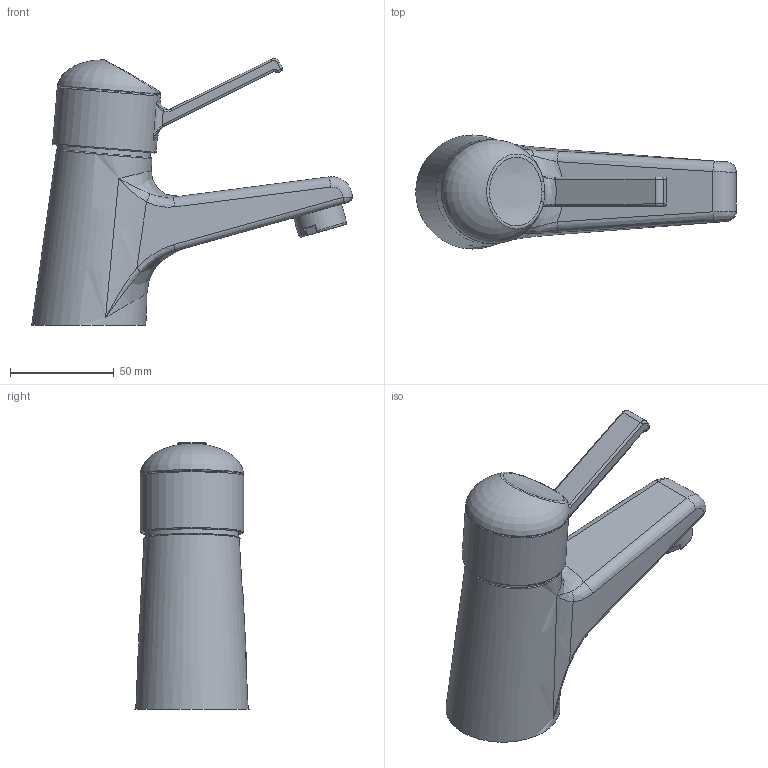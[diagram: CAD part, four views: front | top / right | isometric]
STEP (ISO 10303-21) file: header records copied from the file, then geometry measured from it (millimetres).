
FILE_DESCRIPTION(('STEP AP242'), '1');
FILE_NAME('30CR211R2LMKM', '', ('UNSPECIFIED'), ('UNSPECIFIED'), 'ASCON STEP Converter 1.6', 'ASCON Math Kernel', '');
FILE_SCHEMA(('AP242_MANAGED_MODEL_BASED_3D_ENGINEERING_MIM_LF { 1 0 10303 442 1 1 4 }'));
Length unit declared in the file: millimetre
Assembly tree (2 placements, depth 2):
  (unnamed)
    (unnamed)
    (unnamed)
Bounding box: 154.5 x 55 x 128.49 mm (x, y, z)
Volume: 30249.1 mm3; surface area: 44643.4 mm2
Topology: 1 solids, 2 shells, 115 faces, 275 edges, 157 vertices
Faces by surface type: bspline 49, cylinder 30, plane 22, torus 11, sphere 3
Full cylindrical faces by diameter (mm): 24 x1, 48 x1, 50 x1
Entity records: 12546 total; most frequent: CARTESIAN_POINT 9304, ORIENTED_EDGE 511, DIRECTION 319, EDGE_CURVE 257, VERTEX_POINT 157, B_SPLINE_CURVE_WITH_KNOTS 130, AXIS2_PLACEMENT_3D 129, EDGE_LOOP 127
